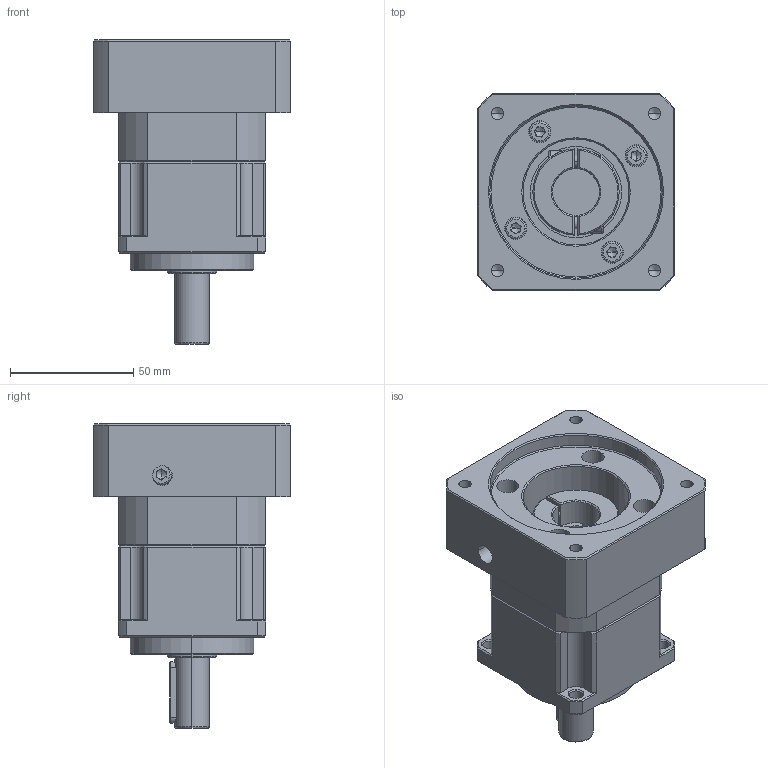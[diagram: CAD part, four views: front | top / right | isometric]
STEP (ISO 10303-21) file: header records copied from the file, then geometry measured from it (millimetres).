
FILE_DESCRIPTION (( 'STEP AP214' ), '1' );
FILE_NAME ('ZPB060-D14-L1-P1-19-70-90-M6.step', '2024-04-23T14:22:11', ( 'Windows 蚚誧' ), ( 'Organization' ), 'SwSTEP 2.0', 'SolidWorks 2016', '' );
FILE_SCHEMA (( 'AUTOMOTIVE_DESIGN' ));
Length unit declared in the file: millimetre
Products named in the file (1): ZPB060-D14-L1-P1-19-70-90-M6
Bounding box: 80 x 80 x 123.5 mm (x, y, z)
Volume: 311074.4 mm3; surface area: 73080.7 mm2
Topology: 10 solids, 10 shells, 1531 faces, 4100 edges, 2653 vertices
Faces by surface type: plane 851, bspline 322, cylinder 216, cone 130, torus 12
Entity records: 80953 total; most frequent: CARTESIAN_POINT 27958, ORIENTED_EDGE 8124, DIRECTION 6280, EDGE_CURVE 4062, VECTOR 2718, LINE 2718, VERTEX_POINT 2653, AXIS2_PLACEMENT_3D 1781
